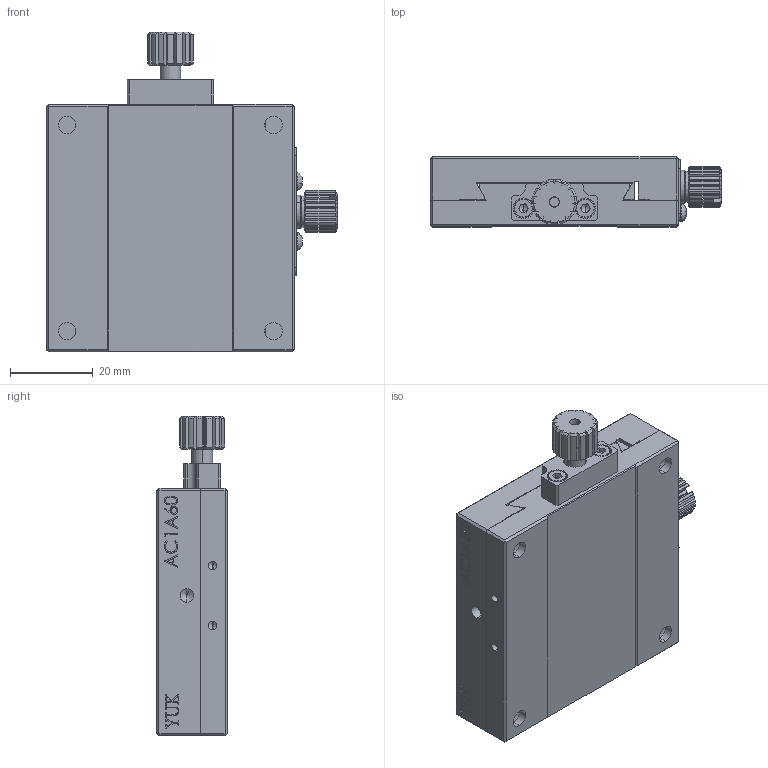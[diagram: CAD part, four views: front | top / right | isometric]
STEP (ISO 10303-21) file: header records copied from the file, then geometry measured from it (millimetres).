
FILE_DESCRIPTION (( 'STEP AP203' ), '1' );
FILE_NAME ('AC1A-60(諦蚚).STEP', '2020-05-18T08:37:09', ( '2012dnd.com' ), ( '2012dnd.com' ), 'SwSTEP 2.0', 'SolidWorks 2017', '' );
FILE_SCHEMA (( 'CONFIG_CONTROL_DESIGN' ));
Length unit declared in the file: millimetre
Products named in the file (1): AC1A-60(諦蚚)
Bounding box: 70.5 x 17 x 77.5 mm (x, y, z)
Volume: 57315.1 mm3; surface area: 29509.3 mm2
Topology: 19 solids, 19 shells, 1052 faces, 2828 edges, 1785 vertices
Faces by surface type: plane 443, cylinder 289, cone 144, bspline 92, torus 64, sphere 20
Entity records: 39097 total; most frequent: CARTESIAN_POINT 13939, ORIENTED_EDGE 5484, DIRECTION 4849, EDGE_CURVE 2742, VERTEX_POINT 1769, AXIS2_PLACEMENT_3D 1727, VECTOR 1395, LINE 1395
